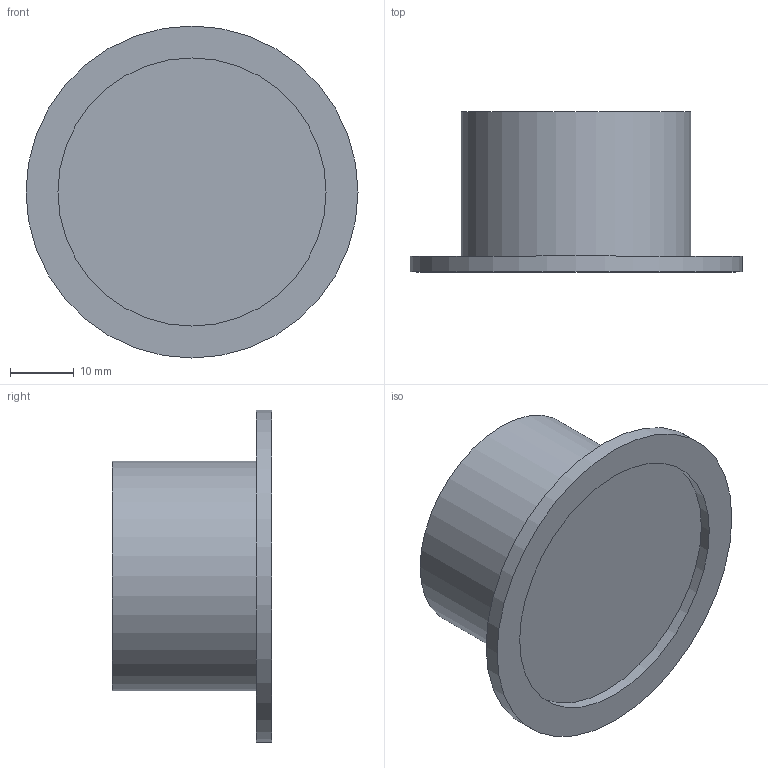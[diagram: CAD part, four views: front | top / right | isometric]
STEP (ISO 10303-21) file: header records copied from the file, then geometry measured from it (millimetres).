
FILE_DESCRIPTION(('Open CASCADE Model'),'2;1');
FILE_NAME('Open CASCADE Shape Model','2026-09-29T12:47:59',('Author'),( 'Open CASCADE'),'Open CASCADE STEP processor 7.9','Open CASCADE 7.9' ,'Unknown');
FILE_SCHEMA(('AUTOMOTIVE_DESIGN { 1 0 10303 214 1 1 1 1 }'));
Length unit declared in the file: millimetre
Products named in the file (1): Open CASCADE STEP translator 7.9 12
Bounding box: 52 x 25.05 x 52 mm (x, y, z)
Volume: 25782.6 mm3; surface area: 7434.6 mm2
Topology: 1 solids, 1 shells, 7 faces, 9 edges, 6 vertices
Faces by surface type: plane 4, cylinder 3
Full cylindrical faces by diameter (mm): 36 x1, 42 x1, 52 x1
Entity records: 276 total; most frequent: DIRECTION 49, CARTESIAN_POINT 41, ORIENTED_EDGE 18, PCURVE 18, DEFINITIONAL_REPRESENTATION 18, LINE 15, VECTOR 15, AXIS2_PLACEMENT_3D 14
